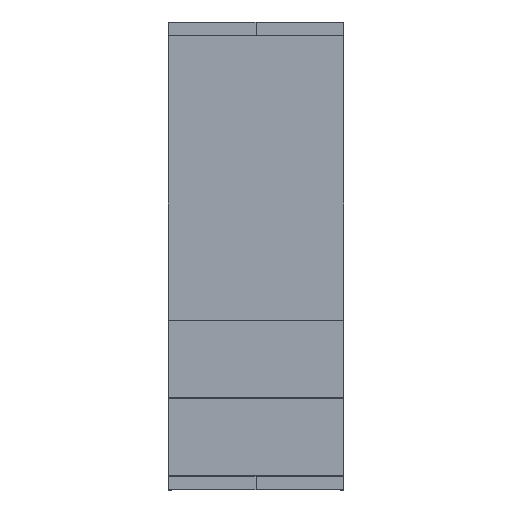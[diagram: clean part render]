
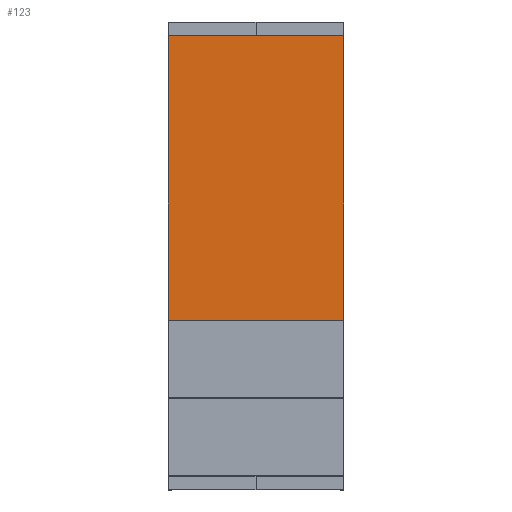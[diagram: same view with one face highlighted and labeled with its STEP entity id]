
A CAD part, top view. The second image highlights one B-rep face of the part: STEP entity #123.
In plain terms, the highlighted planar face has unit normal (0, 0, 1).
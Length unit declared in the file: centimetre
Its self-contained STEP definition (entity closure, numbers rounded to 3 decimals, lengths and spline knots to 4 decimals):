
#123=ADVANCED_FACE($,(#289),#2019,.T.);
#289=FACE_OUTER_BOUND($,#455,.T.);
#455=EDGE_LOOP($,(#886,#887,#888,#889));
#886=ORIENTED_EDGE($,*,*,#1476,.F.);
#887=ORIENTED_EDGE($,*,*,#1477,.F.);
#888=ORIENTED_EDGE($,*,*,#1481,.F.);
#889=ORIENTED_EDGE($,*,*,#1473,.F.);
#1473=EDGE_CURVE($,#1801,#1800,#2269,.T.);
#1476=EDGE_CURVE($,#1804,#1801,#2272,.T.);
#1477=EDGE_CURVE($,#1805,#1804,#2273,.T.);
#1481=EDGE_CURVE($,#1800,#1805,#2277,.T.);
#1800=VERTEX_POINT($,#3458);
#1801=VERTEX_POINT($,#3459);
#1804=VERTEX_POINT($,#3462);
#1805=VERTEX_POINT($,#3463);
#2019=PLANE($,#2653);
#2269=B_SPLINE_CURVE_WITH_KNOTS($,3,(#3430,#3431,#3432,#3433),.UNSPECIFIED.,
.F.,.F.,(4,4),(0.,89.9),.UNSPECIFIED.);
#2272=B_SPLINE_CURVE_WITH_KNOTS($,1,(#3438,#3439),.UNSPECIFIED.,.F.,.F.,
(2,2),(0.,146.),.UNSPECIFIED.);
#2273=B_SPLINE_CURVE_WITH_KNOTS($,1,(#3440,#3441),.UNSPECIFIED.,.F.,.F.,
(2,2),(0.,89.9),.UNSPECIFIED.);
#2277=B_SPLINE_CURVE_WITH_KNOTS($,1,(#3448,#3449),.UNSPECIFIED.,.F.,.F.,
(2,2),(20.,166.),.UNSPECIFIED.);
#2653=AXIS2_PLACEMENT_3D($,#3455,#2822,$);
#2822=DIRECTION($,(0.,0.,1.));
#3430=CARTESIAN_POINT($,(-59.95,-375.,74.51));
#3431=CARTESIAN_POINT($,(-29.9833,-375.,74.51));
#3432=CARTESIAN_POINT($,(-0.0167,-375.,74.51));
#3433=CARTESIAN_POINT($,(29.95,-375.,74.51));
#3438=CARTESIAN_POINT($,(-59.95,-521.,74.51));
#3439=CARTESIAN_POINT($,(-59.95,-375.,74.51));
#3440=CARTESIAN_POINT($,(29.95,-521.,74.51));
#3441=CARTESIAN_POINT($,(-59.95,-521.,74.51));
#3448=CARTESIAN_POINT($,(29.95,-375.,74.51));
#3449=CARTESIAN_POINT($,(29.95,-521.,74.51));
#3455=CARTESIAN_POINT($,(-59.95,-521.,74.51));
#3458=CARTESIAN_POINT($,(29.95,-375.,74.51));
#3459=CARTESIAN_POINT($,(-59.95,-375.,74.51));
#3462=CARTESIAN_POINT($,(-59.95,-521.,74.51));
#3463=CARTESIAN_POINT($,(29.95,-521.,74.51));
